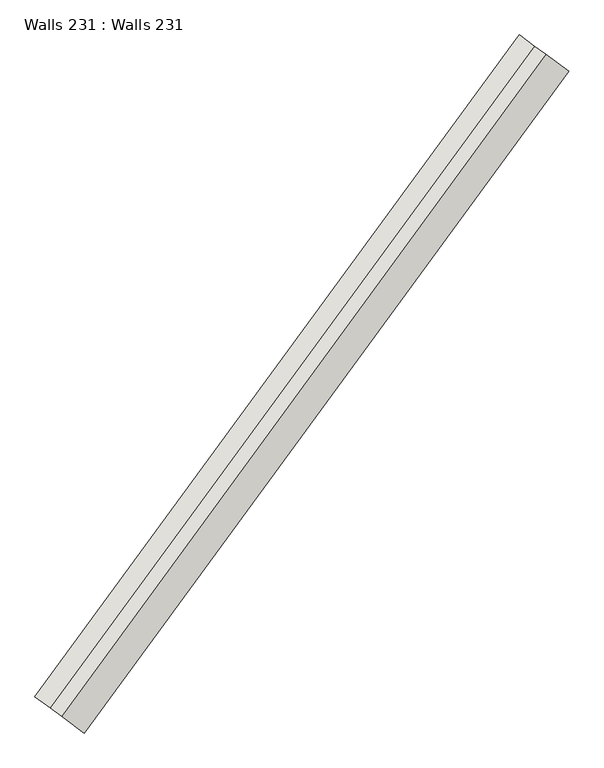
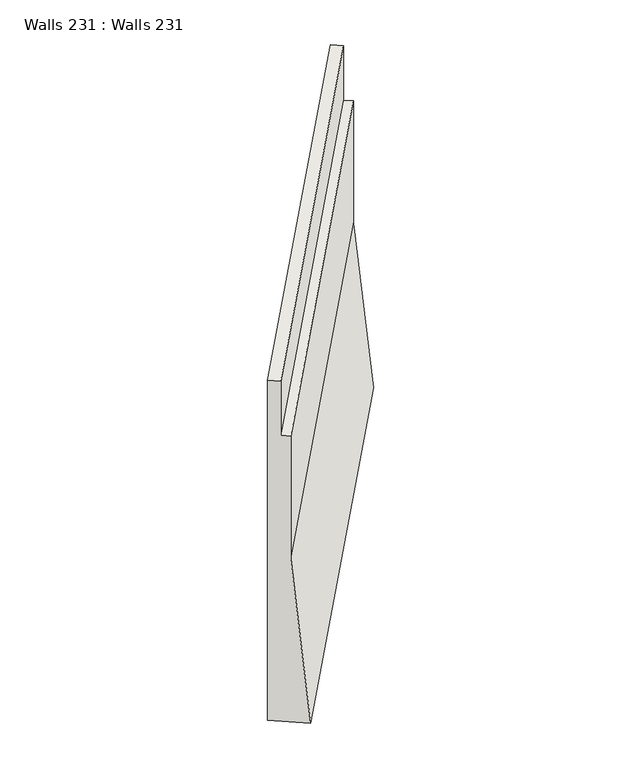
"""IFC4 building model written with IfcOpenShell, lengths in millimetres: wall geometry, Walls 231 : Walls 231."""

from ifc_helpers import new_model, si_unit, origin, place, context, project, spatial, faceted_brep, source, transform, mapped, element, save


def walls_231_walls_231_39341f1c(model_context):
    return source(origin(), model_context, "Body", "Brep", [
        faceted_brep([(432717.2397598, 312906.0330664, 646499.1), (432475.2292698, 313083.3207499, 649499.1), (432475.2292698, 313083.3207499, 651752.5), (432354.2240247, 313171.9645916, 651752.5), (432354.2240247, 313171.9645916, 652752.5), (432192.883698, 313290.1563806, 652752.5), (432192.883698, 313290.1563806, 646499.1), (437858.582581, 319924.3372781, 646611.4), (437334.2265192, 320308.4605923, 646611.4), (437334.2265192, 320308.4605923, 652861.4), (437495.5668459, 320190.2688033, 652861.4), (437495.5668459, 320190.2688033, 651861.4), (437616.5720909, 320101.6249615, 651861.4), (437616.5720909, 320101.6249615, 649611.4)], [[[0, 1, 2, 3, 4, 5, 6]], [[7, 8, 9, 10, 11, 12, 13]], [[7, 13, 1, 0]], [[13, 12, 2, 1]], [[12, 11, 3, 2]], [[11, 10, 4, 3]], [[10, 9, 5, 4]], [[9, 8, 6, 5]], [[8, 7, 0, 6]]]),
    ])


if __name__ == "__main__":
    model = new_model("IFC4")
    model_context = context("Model", 3, world=origin())
    ifc_project = project(units=[si_unit("LENGTHUNIT", "METRE", prefix="MILLI")], contexts=[model_context])
    site = spatial("IfcSite", under=ifc_project)
    building = spatial("IfcBuilding", under=site)
    placement = place(None, origin())
    walls_231_walls_231_shape = walls_231_walls_231_39341f1c(model_context)
    element("IfcWall", 1, ObjectType="Walls 231 : Walls 231", at=placement, inside=building, context=model_context, shape_type="MappedRepresentation", body=[
        mapped(walls_231_walls_231_shape, transform((0.0, 0.0, 0.0), x_axis=(1.0, 0.0, 0.0), y_axis=(0.0, 1.0, 0.0), z_axis=(0.0, 0.0, 1.0))),
    ])
    save(model, "model.ifc")
